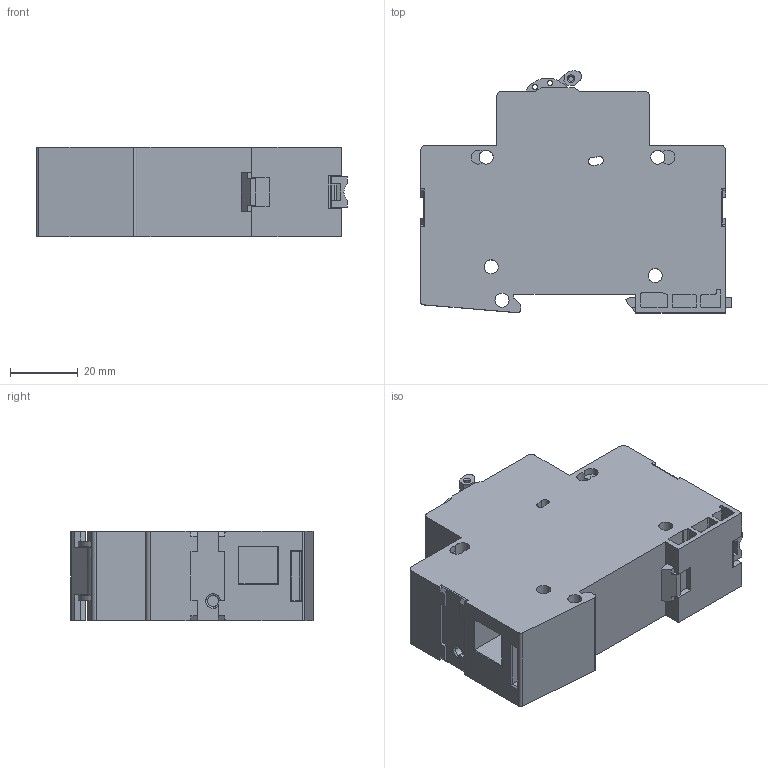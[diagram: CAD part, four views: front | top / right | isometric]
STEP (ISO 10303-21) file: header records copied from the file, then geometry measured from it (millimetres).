
FILE_DESCRIPTION (( 'STEP AP214' ), '1' );
FILE_NAME ('LST_1_zj_02.step', '2013-08-26T07:53:28', ( '' ), ( '' ), 'SwSTEP 2.0', 'SolidWorks 2011', '' );
FILE_SCHEMA (( 'AUTOMOTIVE_DESIGN' ));
Length unit declared in the file: millimetre
Products named in the file (1): LST_1_zj_02
Bounding box: 91.7 x 71.47 x 26.5 mm (x, y, z)
Volume: 122536.1 mm3; surface area: 25366.9 mm2
Topology: 1 solids, 3 shells, 467 faces, 1269 edges, 834 vertices
Faces by surface type: plane 274, cylinder 168, bspline 21, cone 4
Entity records: 21013 total; most frequent: CARTESIAN_POINT 4012, ORIENTED_EDGE 2538, DIRECTION 2400, EDGE_CURVE 1269, VERTEX_POINT 834, LINE 822, VECTOR 822, AXIS2_PLACEMENT_3D 789
